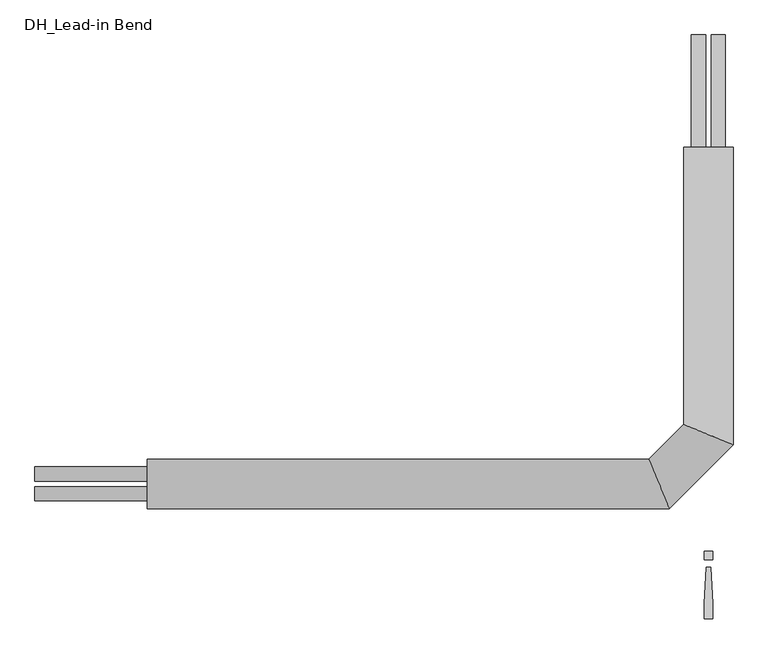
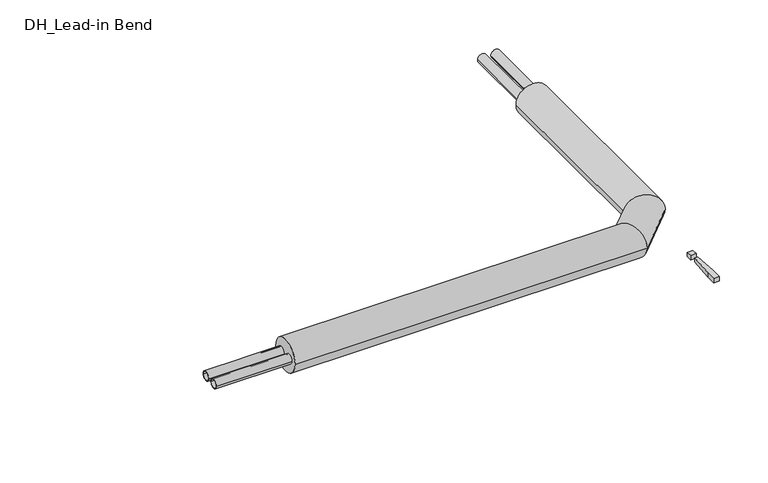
"""IFC4 building model written with IfcOpenShell, lengths in millimetres: pipe fitting geometry, DH_Lead-in Bend : INSULPEX DUO 11 Heating Vertical."""

from ifc_helpers import new_model, si_unit, point, frame, frame_2d, origin, origin_with_axes, place, context, project, spatial, polyline, circle_curve, ellipse_curve, trimmed, segment, composite_curve, outline, extrude, source, transform, mapped, element, save
from ifc_brep_helpers import plane_surface, cylinder_surface, advanced_brep


def dh_lead_in_bend_da32da03(model_context):
    return source(origin(), model_context, "Body", "SolidModel", [
        extrude(outline(composite_curve([segment(trimmed(circle_curve(frame_2d((-22.0, 0.0)), 16.0), [point((-6.0, 0.0))], [point((-38.0, 0.0))], False, "CARTESIAN"), True, "CONTINUOUS"), segment(trimmed(circle_curve(frame_2d((-22.0, 0.0)), 16.0), [point((-38.0, 0.0))], [point((-6.0, 0.0))], False, "CARTESIAN"), True, "CONTINUOUS")], self_intersect=False), holes=[composite_curve([segment(trimmed(circle_curve(frame_2d((-22.0, 0.0)), 13.1), [point((-8.9, 0.0))], [point((-35.1, 0.0))], True, "CARTESIAN"), True, "CONTINUOUS"), segment(trimmed(circle_curve(frame_2d((-22.0, 0.0)), 13.1), [point((-35.1, 0.0))], [point((-8.9, 0.0))], True, "CARTESIAN"), True, "CONTINUOUS")], self_intersect=False)]), frame((-1500.0, 0.0, 0.0), z_axis=(1.0, 0.0, 0.0), x_axis=(0.0, 1.0, 0.0)), (0.0, 0.0, 1.0), 250.0),
        advanced_brep(
        [(-1250.0, -55.0, 0.0), (-1250.0, 55.0, 0.0), (-87.2182541, -55.0, 0.0), (-132.7817459, 55.0, 0.0), (55.0, 750.0, 0.0), (-55.0, 750.0, 0.0), (-55.0, 132.7817459, 0.0), (55.0, 87.2182541, 0.0)],
        [
            (0, 1, circle_curve(frame((-1250.0, 0.0, 0.0), z_axis=(-1.0, 0.0, 0.0), x_axis=(0.0, 1.0, 0.0)), 55.0)),
            (1, 0, circle_curve(frame((-1250.0, 0.0, 0.0), z_axis=(-1.0, 0.0, 0.0), x_axis=(0.0, 1.0, 0.0)), 55.0)),
            (0, 2),
            (2, 3, ellipse_curve(frame((-110.0, 0.0, 0.0), z_axis=(-0.9238795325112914, -0.3826834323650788, 0.0), x_axis=(-0.38268343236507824, 0.9238795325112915, 0.0)), 59.531571, 55.0)),
            (3, 1),
            (3, 2, ellipse_curve(frame((-110.0, 0.0, 0.0), z_axis=(-0.9238795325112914, -0.3826834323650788, 0.0), x_axis=(-0.38268343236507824, 0.9238795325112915, 0.0)), 59.531571, 55.0)),
            (4, 5, circle_curve(frame((0.0, 750.0, 0.0), z_axis=(0.0, 1.0, 0.0), x_axis=(-1.0, 0.0, 0.0)), 55.0)),
            (5, 4, circle_curve(frame((0.0, 750.0, 0.0), z_axis=(0.0, 1.0, 0.0), x_axis=(-1.0, 0.0, 0.0)), 55.0)),
            (6, 7, ellipse_curve(frame((0.0, 110.0, 0.0), z_axis=(0.38268343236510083, 0.9238795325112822, 0.0), x_axis=(0.9238795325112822, -0.3826834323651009, 0.0)), 59.531571, 55.0)),
            (7, 4),
            (5, 6),
            (7, 6, ellipse_curve(frame((0.0, 110.0, 0.0), z_axis=(0.38268343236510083, 0.9238795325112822, 0.0), x_axis=(0.9238795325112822, -0.3826834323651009, 0.0)), 59.531571, 55.0)),
            (2, 7),
            (6, 3),
        ],
        [
            plane_surface(frame((-1250.0, 0.0, 0.0), z_axis=(-1.0, 0.0, 0.0), x_axis=(0.0, 0.0, 1.0))),
            cylinder_surface(frame((-1250.0, 0.0, 0.0), z_axis=(-1.0, 0.0, 0.0), x_axis=(0.0, 1.0, 0.0)), 55.0),
            plane_surface(frame((0.0, 750.0, 0.0), z_axis=(0.0, 1.0, 0.0), x_axis=(0.0, 0.0, 1.0))),
            cylinder_surface(frame((0.0, 110.0, 0.0), z_axis=(0.0, -1.0, 0.0), x_axis=(-1.0, 0.0, 0.0)), 55.0),
            cylinder_surface(frame((-110.0, 0.0, 0.0), z_axis=(-0.7071067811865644, -0.7071067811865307, 0.0), x_axis=(-0.7071067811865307, 0.7071067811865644, 0.0)), 55.0),
        ],
        [
            (0, [[1, 2]]),
            (1, [[-1, 3, 4, 5]]),
            (1, [[-2, -5, 6, -3]]),
            (2, [[7, 8]]),
            (3, [[9, 10, -8, 11]]),
            (3, [[12, -11, -7, -10]]),
            (4, [[-4, 13, -9, 14]]),
            (4, [[-6, -14, -12, -13]]),
        ],
    ),
        extrude(outline(composite_curve([segment(trimmed(circle_curve(frame_2d((0.0, -22.0)), 16.0), [point((0.0, -6.0))], [point((0.0, -38.0))], False, "CARTESIAN"), True, "CONTINUOUS"), segment(trimmed(circle_curve(frame_2d((0.0, -22.0)), 16.0), [point((0.0, -38.0))], [point((0.0, -6.0))], False, "CARTESIAN"), True, "CONTINUOUS")], self_intersect=False), holes=[composite_curve([segment(trimmed(circle_curve(frame_2d((0.0, -22.0)), 13.1), [point((0.0, -8.9))], [point((0.0, -35.1))], True, "CARTESIAN"), True, "CONTINUOUS"), segment(trimmed(circle_curve(frame_2d((0.0, -22.0)), 13.1), [point((0.0, -35.1))], [point((0.0, -8.9))], True, "CARTESIAN"), True, "CONTINUOUS")], self_intersect=False)]), frame((0.0, 750.0, 0.0), z_axis=(0.0, 1.0, 0.0), x_axis=(0.0, 0.0, 1.0)), (0.0, 0.0, 1.0), 250.0),
        extrude(outline(composite_curve([segment(trimmed(circle_curve(frame_2d((22.0, 0.0)), 16.0), [point((6.0, 0.0))], [point((38.0, 0.0))], False, "CARTESIAN"), True, "CONTINUOUS"), segment(trimmed(circle_curve(frame_2d((22.0, 0.0)), 16.0), [point((38.0, 0.0))], [point((6.0, 0.0))], False, "CARTESIAN"), True, "CONTINUOUS")], self_intersect=False), holes=[composite_curve([segment(trimmed(circle_curve(frame_2d((22.0, 0.0)), 13.1), [point((8.9, 0.0))], [point((35.1, 0.0))], True, "CARTESIAN"), True, "CONTINUOUS"), segment(trimmed(circle_curve(frame_2d((22.0, 0.0)), 13.1), [point((35.1, 0.0))], [point((8.9, 0.0))], True, "CARTESIAN"), True, "CONTINUOUS")], self_intersect=False)]), frame((-1500.0, 0.0, 0.0), z_axis=(1.0, 0.0, 0.0), x_axis=(0.0, 1.0, 0.0)), (0.0, 0.0, 1.0), 250.0),
        extrude(outline(composite_curve([segment(trimmed(circle_curve(frame_2d((0.0, 22.0)), 16.0), [point((0.0, 6.0))], [point((0.0, 38.0))], False, "CARTESIAN"), True, "CONTINUOUS"), segment(trimmed(circle_curve(frame_2d((0.0, 22.0)), 16.0), [point((0.0, 38.0))], [point((0.0, 6.0))], False, "CARTESIAN"), True, "CONTINUOUS")], self_intersect=False), holes=[composite_curve([segment(trimmed(circle_curve(frame_2d((0.0, 22.0)), 13.1), [point((0.0, 8.9))], [point((0.0, 35.1))], True, "CARTESIAN"), True, "CONTINUOUS"), segment(trimmed(circle_curve(frame_2d((0.0, 22.0)), 13.1), [point((0.0, 35.1))], [point((0.0, 8.9))], True, "CARTESIAN"), True, "CONTINUOUS")], self_intersect=False)]), frame((0.0, 750.0, 0.0), z_axis=(0.0, 1.0, 0.0), x_axis=(0.0, 0.0, 1.0)), (0.0, 0.0, 1.0), 250.0),
        extrude(outline(polyline([(4.7088895, -185.3166715), (9.4177791, -266.6553807), (9.4177791, -300.6844652), (-9.4177791, -300.6844652), (-9.4177791, -266.6553807), (-4.7088895, -185.3166715), (4.7088895, -185.3166715)])), origin_with_axes(), (0.0, 0.0, 1.0), 15.0),
        extrude(outline(polyline([(9.4177791, -150.0), (9.4177791, -168.8355582), (-9.4177791, -168.8355582), (-9.4177791, -150.0), (9.4177791, -150.0)])), origin_with_axes(), (0.0, 0.0, 1.0), 15.0),
    ])


if __name__ == "__main__":
    model = new_model("IFC4")
    model_context = context("Model", 3, world=origin())
    ifc_project = project(units=[si_unit("LENGTHUNIT", "METRE", prefix="MILLI")], contexts=[model_context])
    site = spatial("IfcSite", under=ifc_project)
    building = spatial("IfcBuilding", under=site)
    placement = place(None, origin())
    dh_lead_in_bend_shape = dh_lead_in_bend_da32da03(model_context)
    element("IfcPipeFitting", 1, ObjectType="DH_Lead-in Bend : INSULPEX DUO 11 Heating Vertical", at=placement, inside=building, context=model_context, shape_type="MappedRepresentation", body=[
        mapped(dh_lead_in_bend_shape, transform((0.0, 0.0, 0.0), x_axis=(1.0, 0.0, 0.0), y_axis=(0.0, 1.0, 0.0), z_axis=(0.0, 0.0, 1.0))),
    ])
    save(model, "model.ifc")
